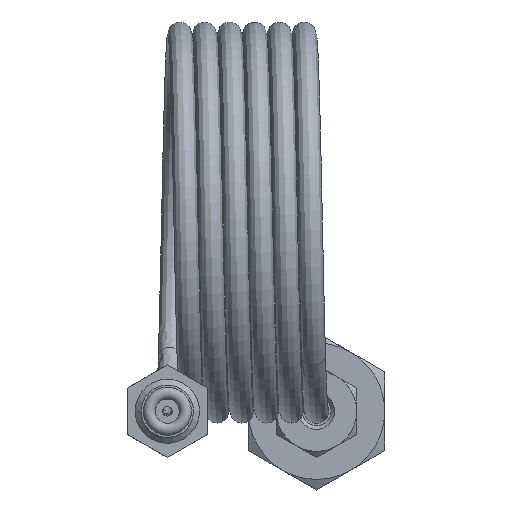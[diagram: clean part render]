
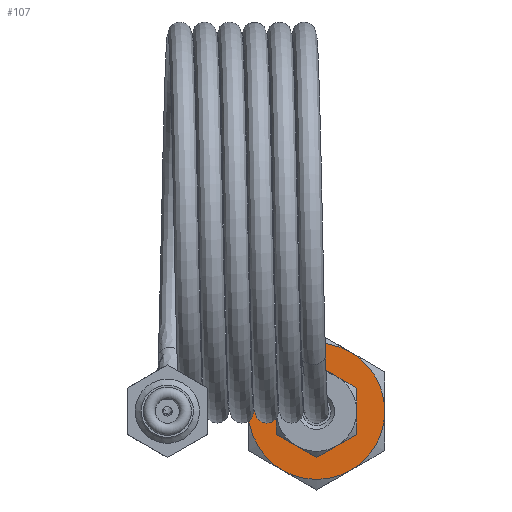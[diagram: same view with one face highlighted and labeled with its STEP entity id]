
A CAD part, front view. The second image highlights one B-rep face of the part: STEP entity #107.
In plain terms, the highlighted planar face has unit normal (0, -1, 0).
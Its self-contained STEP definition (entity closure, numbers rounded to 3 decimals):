
#107=ADVANCED_FACE('',(#6339,#6341),#6343,.F.);
#6339=FACE_BOUND('',#6340,.T.);
#6340=EDGE_LOOP('',(#6637,#6638,#6639,#6640,#6641,#6642));
#6341=FACE_BOUND('',#6342,.T.);
#6342=EDGE_LOOP('',(#6643));
#6343=PLANE('',#6344);
#6344=AXIS2_PLACEMENT_3D('',#6345,#6346,#6347);
#6345=CARTESIAN_POINT('',(0.,50.857,-23.5));
#6346=DIRECTION('',(0.,1.,0.));
#6347=DIRECTION('',(-1.,0.,0.));
#6637=ORIENTED_EDGE('',*,*,#6798,.T.);
#6638=ORIENTED_EDGE('',*,*,#6799,.T.);
#6639=ORIENTED_EDGE('',*,*,#6800,.T.);
#6640=ORIENTED_EDGE('',*,*,#6801,.T.);
#6641=ORIENTED_EDGE('',*,*,#6802,.T.);
#6642=ORIENTED_EDGE('',*,*,#6803,.T.);
#6643=ORIENTED_EDGE('',*,*,#6791,.T.);
#6791=EDGE_CURVE('',#6995,#6995,#6996,.T.);
#6798=EDGE_CURVE('',#7009,#7010,#7011,.F.);
#6799=EDGE_CURVE('',#7010,#7012,#7013,.F.);
#6800=EDGE_CURVE('',#7012,#7014,#7015,.F.);
#6801=EDGE_CURVE('',#7014,#7016,#7017,.F.);
#6802=EDGE_CURVE('',#7016,#7018,#7019,.F.);
#6803=EDGE_CURVE('',#7018,#7009,#7020,.F.);
#6995=VERTEX_POINT('',#8200);
#6996=CIRCLE('',#8201,4.523);
#7009=VERTEX_POINT('',#8229);
#7010=VERTEX_POINT('',#8230);
#7011=CIRCLE('',#8231,8.5);
#7012=VERTEX_POINT('',#8235);
#7013=CIRCLE('',#8236,8.5);
#7014=VERTEX_POINT('',#8240);
#7015=CIRCLE('',#8241,8.5);
#7016=VERTEX_POINT('',#8245);
#7017=CIRCLE('',#8246,8.5);
#7018=VERTEX_POINT('',#8250);
#7019=CIRCLE('',#8251,8.5);
#7020=CIRCLE('',#8255,8.5);
#8200=CARTESIAN_POINT('',(-4.523,50.857,-23.5));
#8201=AXIS2_PLACEMENT_3D('',#8202,#8203,#8204);
#8202=CARTESIAN_POINT('',(0.,50.857,-23.5));
#8203=DIRECTION('',(0.,1.,0.));
#8204=DIRECTION('',(-1.,0.,0.));
#8229=CARTESIAN_POINT('',(4.25,50.857,-30.861));
#8230=CARTESIAN_POINT('',(8.5,50.857,-23.5));
#8231=AXIS2_PLACEMENT_3D('',#8232,#8233,#8234);
#8232=CARTESIAN_POINT('',(0.,50.857,-23.5));
#8233=DIRECTION('',(0.,1.,0.));
#8234=DIRECTION('',(1.,0.,0.));
#8235=CARTESIAN_POINT('',(4.25,50.857,-16.139));
#8236=AXIS2_PLACEMENT_3D('',#8237,#8238,#8239);
#8237=CARTESIAN_POINT('',(0.,50.857,-23.5));
#8238=DIRECTION('',(0.,1.,0.));
#8239=DIRECTION('',(0.5,0.,0.866));
#8240=CARTESIAN_POINT('',(-4.25,50.857,-16.139));
#8241=AXIS2_PLACEMENT_3D('',#8242,#8243,#8244);
#8242=CARTESIAN_POINT('',(0.,50.857,-23.5));
#8243=DIRECTION('',(0.,1.,0.));
#8244=DIRECTION('',(-0.5,0.,0.866));
#8245=CARTESIAN_POINT('',(-8.5,50.857,-23.5));
#8246=AXIS2_PLACEMENT_3D('',#8247,#8248,#8249);
#8247=CARTESIAN_POINT('',(0.,50.857,-23.5));
#8248=DIRECTION('',(0.,1.,0.));
#8249=DIRECTION('',(-1.,0.,0.));
#8250=CARTESIAN_POINT('',(-4.25,50.857,-30.861));
#8251=AXIS2_PLACEMENT_3D('',#8252,#8253,#8254);
#8252=CARTESIAN_POINT('',(0.,50.857,-23.5));
#8253=DIRECTION('',(0.,1.,0.));
#8254=DIRECTION('',(-0.5,0.,-0.866));
#8255=AXIS2_PLACEMENT_3D('',#8256,#8257,#8258);
#8256=CARTESIAN_POINT('',(0.,50.857,-23.5));
#8257=DIRECTION('',(0.,1.,0.));
#8258=DIRECTION('',(0.5,0.,-0.866));
